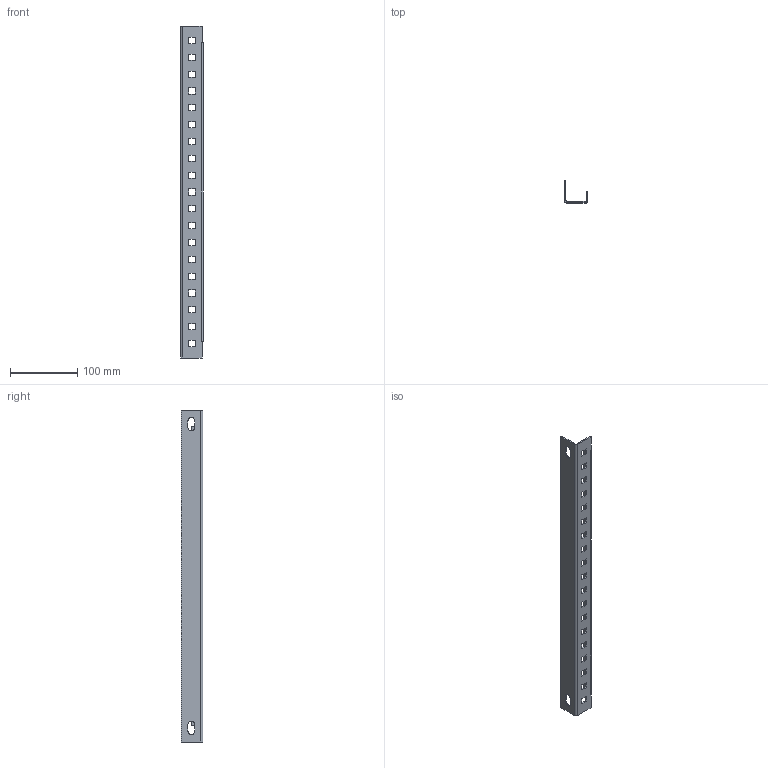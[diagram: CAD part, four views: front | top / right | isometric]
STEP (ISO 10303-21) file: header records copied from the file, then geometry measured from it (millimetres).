
FILE_DESCRIPTION (( 'STEP AP214' ), '1' );
FILE_NAME ('ÏðîôèëüÄëÿÊàáåëÿ600(258920).STEP', '2018-07-16T09:11:14', ( '' ), ( '' ), 'SwSTEP 2.0', 'SolidWorks 2018', '' );
FILE_SCHEMA (( 'AUTOMOTIVE_DESIGN' ));
Length unit declared in the file: millimetre
Products named in the file (1): ÏðîôèëüÄëÿÊàáåëÿ600(258920)
Bounding box: 34 x 32 x 493 mm (x, y, z)
Volume: 70563.5 mm3; surface area: 74417.3 mm2
Topology: 1 solids, 1 shells, 110 faces, 310 edges, 202 vertices
Faces by surface type: plane 102, cylinder 8
Entity records: 3598 total; most frequent: CARTESIAN_POINT 623, ORIENTED_EDGE 620, DIRECTION 550, EDGE_CURVE 310, LINE 292, VECTOR 292, VERTEX_POINT 202, EDGE_LOOP 152
